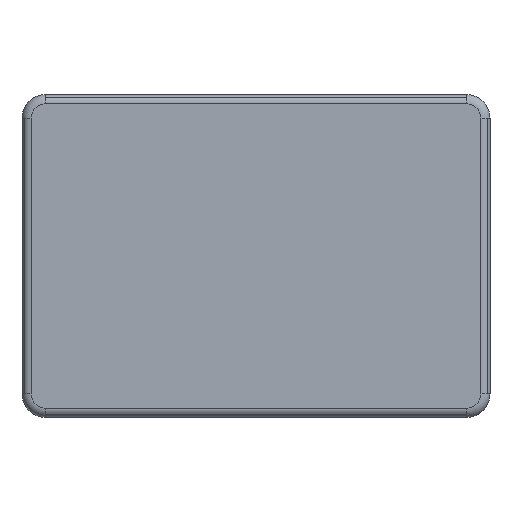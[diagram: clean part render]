
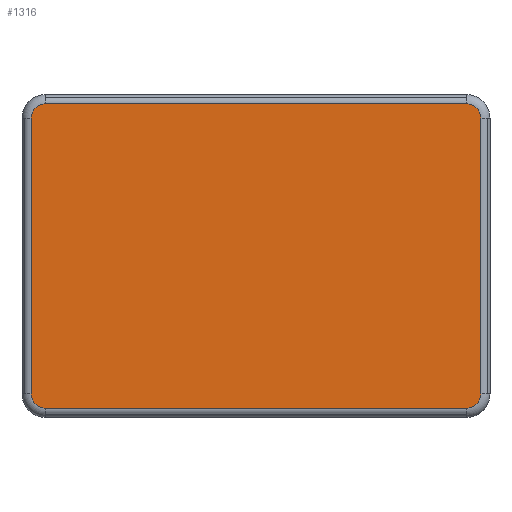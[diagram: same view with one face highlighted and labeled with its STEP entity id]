
A CAD part, front view. The second image highlights one B-rep face of the part: STEP entity #1316.
In plain terms, the highlighted planar face has unit normal (0, -1, 0).
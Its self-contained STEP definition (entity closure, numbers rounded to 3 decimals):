
#1316=ADVANCED_FACE('',(#3531),#3532,.F.);
#3531=FACE_OUTER_BOUND('',#5750,.T.);
#3532=PLANE('',#5751);
#5750=EDGE_LOOP('',(#15410,#15411,#15412,#15413,#15414,#15415,#15416,#15417));
#5751=AXIS2_PLACEMENT_3D('',#15418,#15419,#15420);
#15410=ORIENTED_EDGE('',*,*,#18632,.F.);
#15411=ORIENTED_EDGE('',*,*,#18566,.F.);
#15412=ORIENTED_EDGE('',*,*,#18646,.F.);
#15413=ORIENTED_EDGE('',*,*,#18570,.F.);
#15414=ORIENTED_EDGE('',*,*,#18643,.F.);
#15415=ORIENTED_EDGE('',*,*,#18574,.F.);
#15416=ORIENTED_EDGE('',*,*,#18638,.F.);
#15417=ORIENTED_EDGE('',*,*,#18578,.F.);
#15418=CARTESIAN_POINT('',(0.,-4.5,0.));
#15419=DIRECTION('',(0.0,1.0,0.0));
#15420=DIRECTION('',(0.0,0.0,1.0));
#18566=EDGE_CURVE('',#23815,#23817,#23818,.T.);
#18570=EDGE_CURVE('',#23823,#23825,#23826,.T.);
#18574=EDGE_CURVE('',#23831,#23833,#23834,.T.);
#18578=EDGE_CURVE('',#23839,#23841,#23842,.T.);
#18632=EDGE_CURVE('',#23817,#23839,#23927,.T.);
#18638=EDGE_CURVE('',#23841,#23831,#23934,.T.);
#18643=EDGE_CURVE('',#23833,#23823,#23939,.T.);
#18646=EDGE_CURVE('',#23825,#23815,#23942,.T.);
#23815=VERTEX_POINT('',#32136);
#23817=VERTEX_POINT('',#32138);
#23818=LINE('',#32139,#32140);
#23823=VERTEX_POINT('',#32146);
#23825=VERTEX_POINT('',#32148);
#23826=LINE('',#32149,#32150);
#23831=VERTEX_POINT('',#32156);
#23833=VERTEX_POINT('',#32158);
#23834=LINE('',#32159,#32160);
#23839=VERTEX_POINT('',#32166);
#23841=VERTEX_POINT('',#32168);
#23842=LINE('',#32169,#32170);
#23927=CIRCLE('',#32276,0.062);
#23934=CIRCLE('',#32284,0.061);
#23939=CIRCLE('',#32290,0.062);
#23942=CIRCLE('',#32293,0.062);
#32136=CARTESIAN_POINT('',(-0.914,-4.5,0.66));
#32138=CARTESIAN_POINT('',(0.914,-4.5,0.66));
#32139=CARTESIAN_POINT('',(-0.457,-4.5,0.66));
#32140=VECTOR('',#35552,1.0);
#32146=CARTESIAN_POINT('',(-0.975,-4.5,-0.599));
#32148=CARTESIAN_POINT('',(-0.975,-4.5,0.599));
#32149=CARTESIAN_POINT('',(-0.975,-4.5,-0.299));
#32150=VECTOR('',#35560,1.0);
#32156=CARTESIAN_POINT('',(0.914,-4.5,-0.66));
#32158=CARTESIAN_POINT('',(-0.914,-4.5,-0.66));
#32159=CARTESIAN_POINT('',(0.457,-4.5,-0.66));
#32160=VECTOR('',#35568,1.0);
#32166=CARTESIAN_POINT('',(0.975,-4.5,0.599));
#32168=CARTESIAN_POINT('',(0.975,-4.5,-0.599));
#32169=CARTESIAN_POINT('',(0.975,-4.5,0.299));
#32170=VECTOR('',#35576,1.0);
#32276=AXIS2_PLACEMENT_3D('',#35694,#35695,#35696);
#32284=AXIS2_PLACEMENT_3D('',#35710,#35711,#35712);
#32290=AXIS2_PLACEMENT_3D('',#35723,#35724,#35725);
#32293=AXIS2_PLACEMENT_3D('',#35732,#35733,#35734);
#35552=DIRECTION('',(1.0,0.0,0.0));
#35560=DIRECTION('',(0.0,0.0,1.0));
#35568=DIRECTION('',(-1.0,0.0,0.0));
#35576=DIRECTION('',(0.0,0.0,-1.0));
#35694=CARTESIAN_POINT('',(0.914,-4.5,0.599));
#35695=DIRECTION('',(-0.0,1.0,0.0));
#35696=DIRECTION('',(0.707,0.0,0.707));
#35710=CARTESIAN_POINT('',(0.914,-4.5,-0.599));
#35711=DIRECTION('',(0.0,1.0,0.0));
#35712=DIRECTION('',(0.707,0.0,-0.707));
#35723=CARTESIAN_POINT('',(-0.914,-4.5,-0.599));
#35724=DIRECTION('',(0.0,1.0,0.0));
#35725=DIRECTION('',(-0.707,0.0,-0.707));
#35732=CARTESIAN_POINT('',(-0.914,-4.5,0.599));
#35733=DIRECTION('',(0.0,1.0,0.0));
#35734=DIRECTION('',(-0.707,0.0,0.707));
